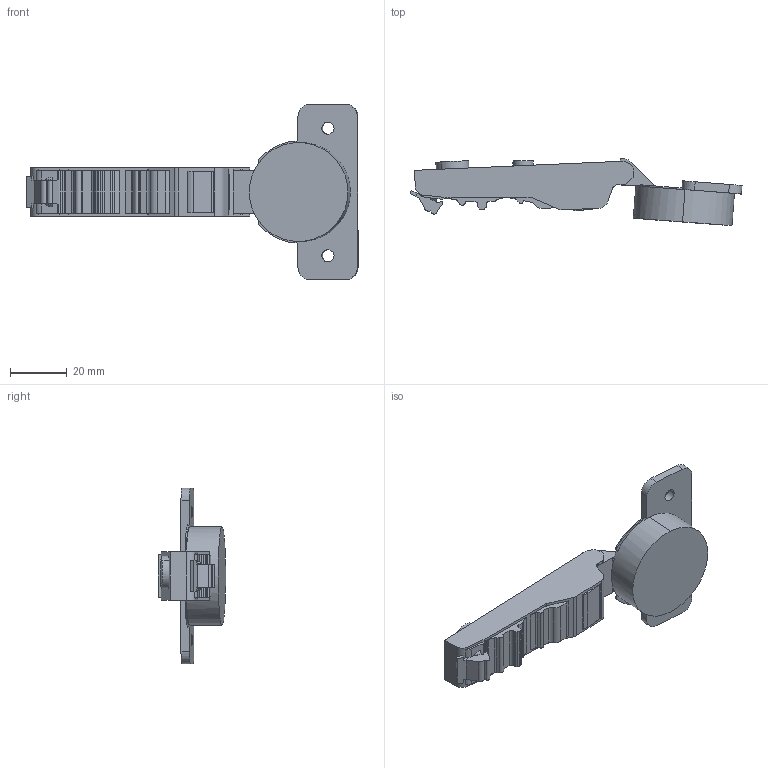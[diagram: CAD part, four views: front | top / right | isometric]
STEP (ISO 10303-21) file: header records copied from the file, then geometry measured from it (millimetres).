
FILE_DESCRIPTION (( 'STEP AP214' ), '1' );
FILE_NAME ('C82A615FA-Open.STEP', '2025-07-21T08:28:32', ( '微软用户' ), ( '微软中国' ), 'SwSTEP 2.0', 'SolidWorks 2021', '' );
FILE_SCHEMA (( 'AUTOMOTIVE_DESIGN' ));
Length unit declared in the file: millimetre
Products named in the file (1): C82A615FA-Open
Bounding box: 117.03 x 23.75 x 62 mm (x, y, z)
Volume: 32464.2 mm3; surface area: 10756.5 mm2
Topology: 1 solids, 1 shells, 175 faces, 506 edges, 336 vertices
Faces by surface type: plane 88, cylinder 75, bspline 8, torus 4
Entity records: 6127 total; most frequent: CARTESIAN_POINT 1471, ORIENTED_EDGE 1012, DIRECTION 948, EDGE_CURVE 506, VERTEX_POINT 336, AXIS2_PLACEMENT_3D 323, VECTOR 302, LINE 302
